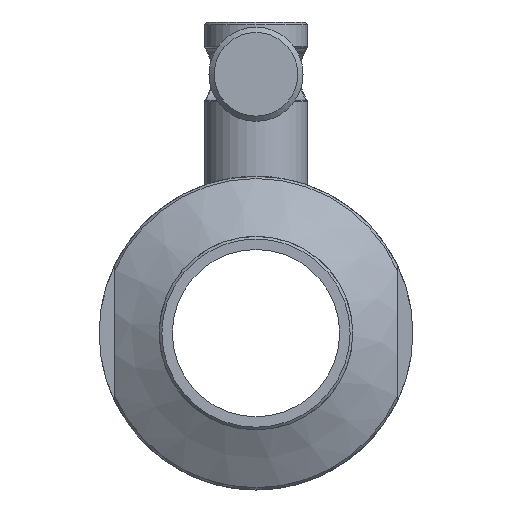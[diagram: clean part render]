
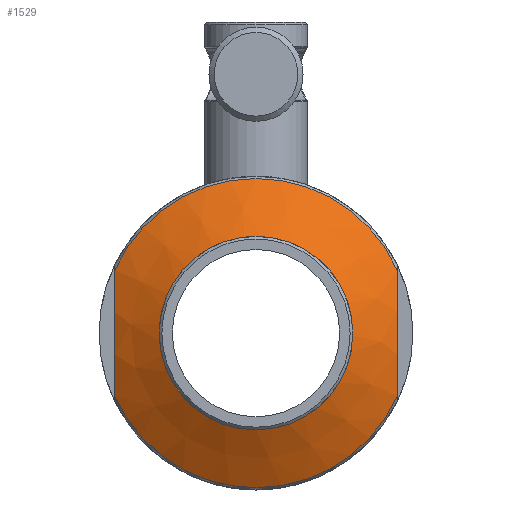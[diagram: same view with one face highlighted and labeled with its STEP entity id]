
A CAD part, front view. The second image highlights one B-rep face of the part: STEP entity #1529.
In plain terms, the highlighted conical face has half-angle 60 degrees and reference radius 18.5 mm.
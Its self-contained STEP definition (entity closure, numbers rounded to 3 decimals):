
#104=B_SPLINE_CURVE_WITH_KNOTS('',3,(#3493,#3494,#3495,#3496,#3497,#3498,
#3499),.UNSPECIFIED.,.F.,.F.,(4,1,1,1,4),(0.029,0.035,
0.041,0.047,0.053),.UNSPECIFIED.);
#105=B_SPLINE_CURVE_WITH_KNOTS('',3,(#3503,#3504,#3505,#3506,#3507,#3508,
#3509),.UNSPECIFIED.,.F.,.F.,(4,1,1,1,4),(0.029,0.035,
0.041,0.047,0.053),.UNSPECIFIED.);
#175=CONICAL_SURFACE('',#2453,18.5,1.047);
#302=ORIENTED_EDGE('',*,*,#620,.F.);
#303=ORIENTED_EDGE('',*,*,#621,.T.);
#304=ORIENTED_EDGE('',*,*,#622,.T.);
#305=ORIENTED_EDGE('',*,*,#623,.T.);
#306=ORIENTED_EDGE('',*,*,#624,.T.);
#620=EDGE_CURVE('',#792,#792,#932,.T.);
#621=EDGE_CURVE('',#793,#794,#933,.T.);
#622=EDGE_CURVE('',#794,#795,#104,.F.);
#623=EDGE_CURVE('',#795,#796,#934,.T.);
#624=EDGE_CURVE('',#796,#793,#105,.T.);
#792=VERTEX_POINT('',#3489);
#793=VERTEX_POINT('',#3491);
#794=VERTEX_POINT('',#3492);
#795=VERTEX_POINT('',#3500);
#796=VERTEX_POINT('',#3502);
#932=CIRCLE('',#2454,18.5);
#933=CIRCLE('',#2455,29.567);
#934=CIRCLE('',#2456,29.567);
#1075=EDGE_LOOP('',(#302));
#1076=EDGE_LOOP('',(#303,#304,#305,#306));
#1297=FACE_BOUND('',#1075,.T.);
#1298=FACE_BOUND('',#1076,.T.);
#1529=ADVANCED_FACE('',(#1297,#1298),#175,.T.);
#2453=AXIS2_PLACEMENT_3D('',#3487,#2776,#2777);
#2454=AXIS2_PLACEMENT_3D('',#3488,#2778,#2779);
#2455=AXIS2_PLACEMENT_3D('',#3490,#2780,#2781);
#2456=AXIS2_PLACEMENT_3D('',#3501,#2782,#2783);
#2776=DIRECTION('',(0.,1.,0.));
#2777=DIRECTION('',(0.,0.,1.));
#2778=DIRECTION('',(0.,-1.,0.));
#2779=DIRECTION('',(0.,0.,-1.));
#2780=DIRECTION('',(0.,-1.,0.));
#2781=DIRECTION('',(0.,0.,-1.));
#2782=DIRECTION('',(0.,-1.,0.));
#2783=DIRECTION('',(0.,0.,-1.));
#3487=CARTESIAN_POINT('',(0.,-12.,0.));
#3488=CARTESIAN_POINT('',(0.,-12.,0.));
#3489=CARTESIAN_POINT('',(0.,-12.,-18.5));
#3490=CARTESIAN_POINT('',(0.,-5.61,0.));
#3491=CARTESIAN_POINT('',(-27.,-5.61,-12.05));
#3492=CARTESIAN_POINT('',(27.,-5.61,-12.05));
#3493=CARTESIAN_POINT('',(27.,-5.61,12.05));
#3494=CARTESIAN_POINT('',(27.,-6.076,10.07));
#3495=CARTESIAN_POINT('',(27.,-6.827,6.052));
#3496=CARTESIAN_POINT('',(27.,-7.226,0.024));
#3497=CARTESIAN_POINT('',(27.,-6.824,-6.096));
#3498=CARTESIAN_POINT('',(27.,-6.073,-10.086));
#3499=CARTESIAN_POINT('',(27.,-5.61,-12.05));
#3500=CARTESIAN_POINT('',(27.,-5.61,12.05));
#3501=CARTESIAN_POINT('',(0.,-5.61,0.));
#3502=CARTESIAN_POINT('',(-27.,-5.61,12.05));
#3503=CARTESIAN_POINT('',(-27.,-5.61,12.05));
#3504=CARTESIAN_POINT('',(-27.,-6.076,10.07));
#3505=CARTESIAN_POINT('',(-27.,-6.827,6.052));
#3506=CARTESIAN_POINT('',(-27.,-7.226,0.024));
#3507=CARTESIAN_POINT('',(-27.,-6.824,-6.096));
#3508=CARTESIAN_POINT('',(-27.,-6.073,-10.086));
#3509=CARTESIAN_POINT('',(-27.,-5.61,-12.05));
